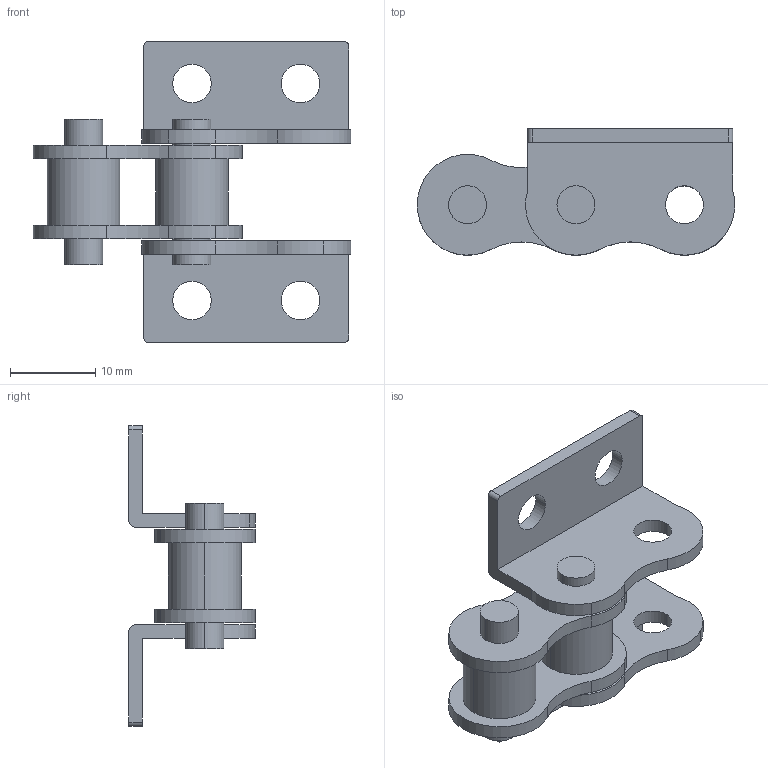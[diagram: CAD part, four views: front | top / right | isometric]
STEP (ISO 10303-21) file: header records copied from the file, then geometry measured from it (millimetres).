
FILE_DESCRIPTION( ( '' ), '1' );
FILE_NAME( 'U:/Transfer/Rk m b Wl DIN8187-2 1 10500021.stp', '2009-02-23T07:48:14', ( '' ), ( '' ), ' ', ' ', ' ' );
FILE_SCHEMA( ( 'CONFIG_CONTROL_DESIGN' ) );
Length unit declared in the file: millimetre
Products named in the file (5): 1; 2; 3; 4; 5
Bounding box: 37.19 x 14.8 x 35.2 mm (x, y, z)
Volume: 3481.7 mm3; surface area: 4657.4 mm2
Topology: 5 solids, 5 shells, 76 faces, 192 edges, 128 vertices
Faces by surface type: cylinder 54, plane 22
Entity records: 2608 total; most frequent: DIRECTION 462, CARTESIAN_POINT 401, ORIENTED_EDGE 384, EDGE_CURVE 192, AXIS2_PLACEMENT_3D 189, VERTEX_POINT 128, CIRCLE 108, EDGE_LOOP 100
